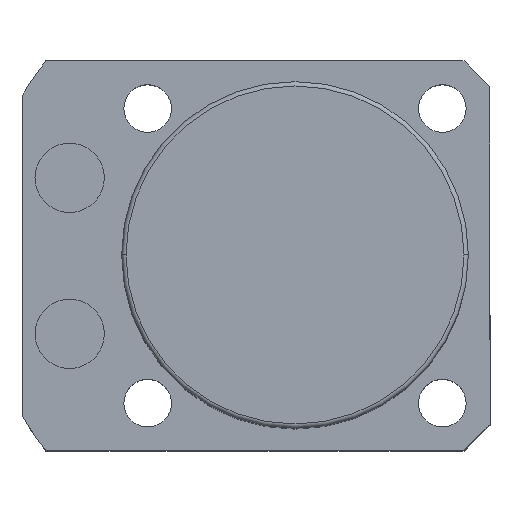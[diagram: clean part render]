
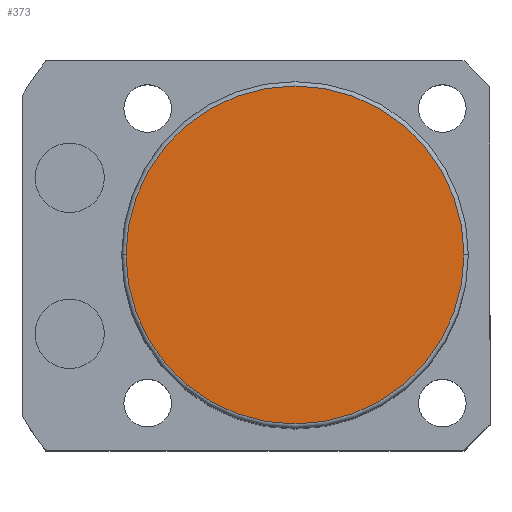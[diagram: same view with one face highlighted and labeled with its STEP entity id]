
A CAD part, top view. The second image highlights one B-rep face of the part: STEP entity #373.
In plain terms, the highlighted planar face has unit normal (0, 0, 1).
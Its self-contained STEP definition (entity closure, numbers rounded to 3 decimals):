
#79 = ORIENTED_EDGE ( 'NONE', *, *, #1941, .T. ) ;
#90 = EDGE_CURVE ( 'NONE', #615, #2409, #1407, .T. ) ;
#174 = ORIENTED_EDGE ( 'NONE', *, *, #90, .T. ) ;
#373 = ADVANCED_FACE ( 'NONE', ( #1752 ), #550, .T. ) ;
#511 = AXIS2_PLACEMENT_3D ( 'NONE', #757, #1400, #2217 ) ;
#550 = PLANE ( 'NONE',  #511 ) ;
#600 = AXIS2_PLACEMENT_3D ( 'NONE', #1704, #1509, #2100 ) ;
#615 = VERTEX_POINT ( 'NONE', #1269 ) ;
#626 = CIRCLE ( 'NONE', #1979, 19.5 ) ;
#757 = CARTESIAN_POINT ( 'NONE',  ( 0., 0., 68.5 ) ) ;
#790 = DIRECTION ( 'NONE',  ( 1., 0., 0. ) ) ;
#846 = EDGE_LOOP ( 'NONE', ( #174, #79 ) ) ;
#861 = CARTESIAN_POINT ( 'NONE',  ( -19.5, 0., 68.5 ) ) ;
#1197 = CARTESIAN_POINT ( 'NONE',  ( 0., 0., 68.5 ) ) ;
#1269 = CARTESIAN_POINT ( 'NONE',  ( 19.5, 0., 68.5 ) ) ;
#1400 = DIRECTION ( 'NONE',  ( 0., 0., 1. ) ) ;
#1407 = CIRCLE ( 'NONE', #600, 19.5 ) ;
#1509 = DIRECTION ( 'NONE',  ( 0., 0., 1. ) ) ;
#1704 = CARTESIAN_POINT ( 'NONE',  ( 0., 0., 68.5 ) ) ;
#1752 = FACE_OUTER_BOUND ( 'NONE', #846, .T. ) ;
#1941 = EDGE_CURVE ( 'NONE', #2409, #615, #626, .T. ) ;
#1979 = AXIS2_PLACEMENT_3D ( 'NONE', #1197, #2358, #790 ) ;
#2100 = DIRECTION ( 'NONE',  ( 1., 0., 0. ) ) ;
#2217 = DIRECTION ( 'NONE',  ( 1., 0., 0. ) ) ;
#2358 = DIRECTION ( 'NONE',  ( 0., 0., 1. ) ) ;
#2409 = VERTEX_POINT ( 'NONE', #861 ) ;
